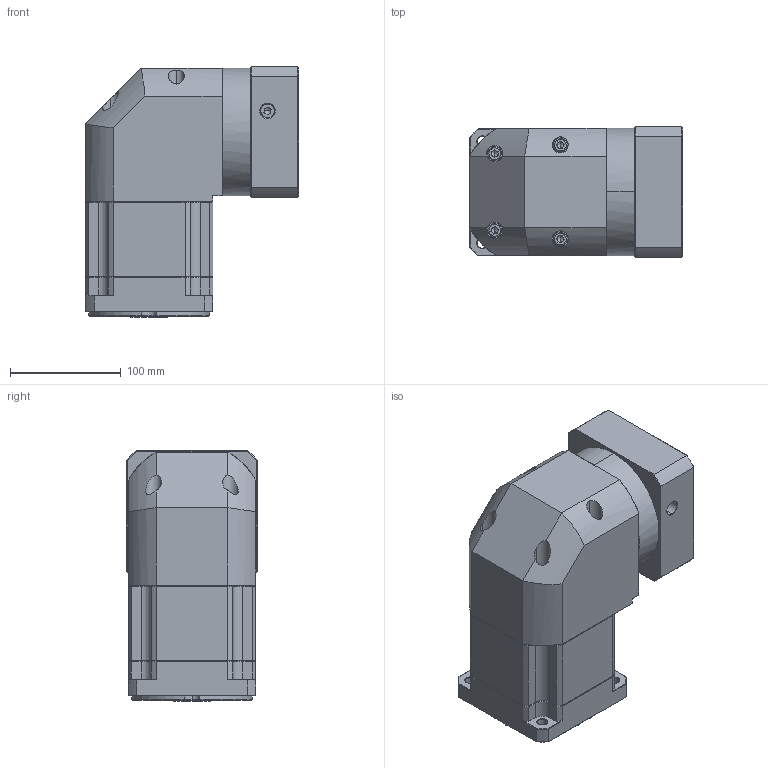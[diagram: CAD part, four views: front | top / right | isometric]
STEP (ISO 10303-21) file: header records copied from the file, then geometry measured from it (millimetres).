
FILE_DESCRIPTION (( 'STEP AP214' ), '1' );
FILE_NAME ('ZBR115A-K25-L2-P2-24-95-130-M8.step', '2023-08-26T12:45:01', ( '' ), ( '' ), 'SwSTEP 2.0', 'SolidWorks 2016', '' );
FILE_SCHEMA (( 'AUTOMOTIVE_DESIGN' ));
Length unit declared in the file: millimetre
Products named in the file (1): ZBR115A-K25-L2-P2-24-95-130-M8
Bounding box: 192.4 x 118 x 226.5 mm (x, y, z)
Volume: 3243274.8 mm3; surface area: 256247.3 mm2
Topology: 6 solids, 6 shells, 2324 faces, 6098 edges, 3878 vertices
Faces by surface type: plane 1132, bspline 415, cylinder 406, cone 363, torus 8
Entity records: 122699 total; most frequent: CARTESIAN_POINT 43239, ORIENTED_EDGE 12140, DIRECTION 9615, EDGE_CURVE 6070, VECTOR 3939, LINE 3939, VERTEX_POINT 3878, AXIS2_PLACEMENT_3D 2838
